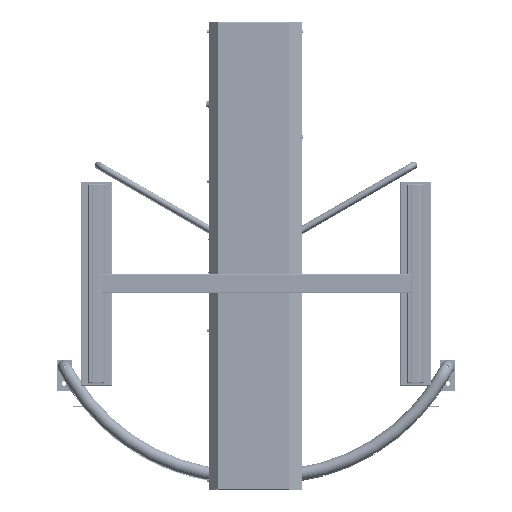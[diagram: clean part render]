
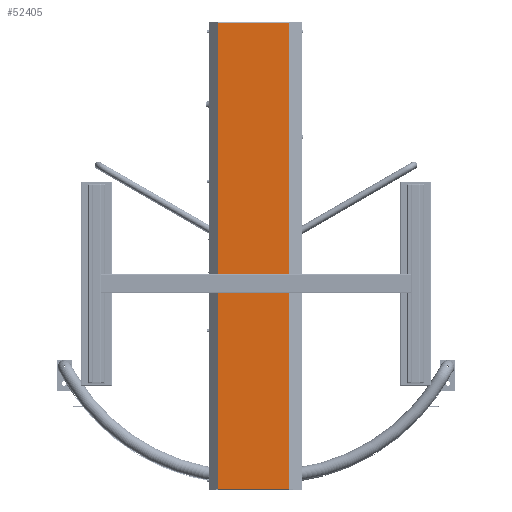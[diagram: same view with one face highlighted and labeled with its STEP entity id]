
A CAD part, top view. The second image highlights one B-rep face of the part: STEP entity #52405.
In plain terms, the highlighted planar face has unit normal (0, 0, 1) as drawn and (0, 1, 0) by its records, which use the part's own axes.
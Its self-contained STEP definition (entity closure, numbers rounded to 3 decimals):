
#746=LINE('',#79989,#5738);
#751=LINE('',#79999,#5743);
#752=LINE('',#80005,#5744);
#753=LINE('',#80007,#5745);
#754=LINE('',#80009,#5746);
#755=LINE('',#80011,#5747);
#756=LINE('',#80013,#5748);
#757=LINE('',#80014,#5749);
#5738=VECTOR('',#64563,1000.);
#5743=VECTOR('',#64570,1000.);
#5744=VECTOR('',#64577,1000.);
#5745=VECTOR('',#64578,1000.);
#5746=VECTOR('',#64579,1000.);
#5747=VECTOR('',#64580,1000.);
#5748=VECTOR('',#64581,1000.);
#5749=VECTOR('',#64582,1000.);
#11876=PLANE('',#58878);
#13968=CIRCLE('',#58879,0.05);
#13969=CIRCLE('',#58880,0.05);
#16344=ORIENTED_EDGE('',*,*,#30561,.F.);
#16345=ORIENTED_EDGE('',*,*,#30562,.F.);
#16346=ORIENTED_EDGE('',*,*,#30560,.F.);
#16347=ORIENTED_EDGE('',*,*,#30563,.T.);
#16348=ORIENTED_EDGE('',*,*,#30564,.F.);
#16349=ORIENTED_EDGE('',*,*,#30565,.T.);
#16350=ORIENTED_EDGE('',*,*,#30566,.F.);
#16351=ORIENTED_EDGE('',*,*,#30567,.T.);
#16352=ORIENTED_EDGE('',*,*,#30555,.F.);
#16353=ORIENTED_EDGE('',*,*,#30568,.T.);
#30555=EDGE_CURVE('',#37802,#37806,#746,.T.);
#30560=EDGE_CURVE('',#37809,#37805,#751,.T.);
#30561=EDGE_CURVE('',#37810,#37810,#13968,.T.);
#30562=EDGE_CURVE('',#37811,#37811,#13969,.T.);
#30563=EDGE_CURVE('',#37809,#37812,#752,.T.);
#30564=EDGE_CURVE('',#37813,#37812,#753,.T.);
#30565=EDGE_CURVE('',#37813,#37814,#754,.T.);
#30566=EDGE_CURVE('',#37815,#37814,#755,.T.);
#30567=EDGE_CURVE('',#37815,#37806,#756,.T.);
#30568=EDGE_CURVE('',#37802,#37805,#757,.T.);
#37802=VERTEX_POINT('',#79977);
#37805=VERTEX_POINT('',#79986);
#37806=VERTEX_POINT('',#79990);
#37809=VERTEX_POINT('',#79998);
#37810=VERTEX_POINT('',#80002);
#37811=VERTEX_POINT('',#80004);
#37812=VERTEX_POINT('',#80006);
#37813=VERTEX_POINT('',#80008);
#37814=VERTEX_POINT('',#80010);
#37815=VERTEX_POINT('',#80012);
#43654=EDGE_LOOP('',(#16344));
#43655=EDGE_LOOP('',(#16345));
#43656=EDGE_LOOP('',(#16346,#16347,#16348,#16349,#16350,#16351,#16352,#16353));
#47789=FACE_BOUND('',#43654,.T.);
#47790=FACE_BOUND('',#43655,.T.);
#47791=FACE_BOUND('',#43656,.T.);
#52405=ADVANCED_FACE('',(#47789,#47790,#47791),#11876,.F.);
#58878=AXIS2_PLACEMENT_3D('',#80000,#64571,#64572);
#58879=AXIS2_PLACEMENT_3D('',#80001,#64573,#64574);
#58880=AXIS2_PLACEMENT_3D('',#80003,#64575,#64576);
#64563=DIRECTION('',(0.,0.,-1.));
#64570=DIRECTION('',(0.,0.,-1.));
#64571=DIRECTION('',(0.,-1.,0.));
#64572=DIRECTION('',(0.,0.,-1.));
#64573=DIRECTION('',(0.,1.,0.));
#64574=DIRECTION('',(1.,0.,0.));
#64575=DIRECTION('',(0.,1.,0.));
#64576=DIRECTION('',(1.,0.,0.));
#64577=DIRECTION('',(1.,0.,0.));
#64578=DIRECTION('',(0.,0.,1.));
#64579=DIRECTION('',(0.,0.,-1.));
#64580=DIRECTION('',(0.,0.,1.));
#64581=DIRECTION('',(-1.,0.,0.));
#64582=DIRECTION('',(0.,0.,1.));
#79977=CARTESIAN_POINT('',(-751.5,114.688,-257.128));
#79986=CARTESIAN_POINT('',(-751.5,114.688,-28.511));
#79989=CARTESIAN_POINT('',(-751.5,114.688,-257.128));
#79990=CARTESIAN_POINT('',(-751.5,114.688,-257.13));
#79998=CARTESIAN_POINT('',(-751.5,114.688,-28.509));
#79999=CARTESIAN_POINT('',(-751.5,114.688,-257.128));
#80000=CARTESIAN_POINT('',(753.5,114.688,-27.726));
#80001=CARTESIAN_POINT('',(739.,114.688,-41.338));
#80002=CARTESIAN_POINT('',(739.05,114.688,-41.338));
#80003=CARTESIAN_POINT('',(-739.,114.688,-41.338));
#80004=CARTESIAN_POINT('',(-738.95,114.688,-41.338));
#80005=CARTESIAN_POINT('',(-753.5,114.688,-28.509));
#80006=CARTESIAN_POINT('',(751.5,114.688,-28.509));
#80007=CARTESIAN_POINT('',(751.5,114.688,-28.511));
#80008=CARTESIAN_POINT('',(751.5,114.688,-28.511));
#80009=CARTESIAN_POINT('',(751.5,114.688,-28.511));
#80010=CARTESIAN_POINT('',(751.5,114.688,-257.128));
#80011=CARTESIAN_POINT('',(751.5,114.688,-28.511));
#80012=CARTESIAN_POINT('',(751.5,114.688,-257.13));
#80013=CARTESIAN_POINT('',(753.5,114.688,-257.13));
#80014=CARTESIAN_POINT('',(-751.5,114.688,-257.128));
